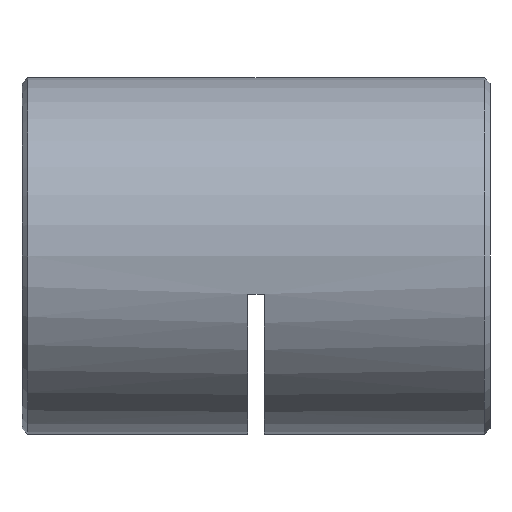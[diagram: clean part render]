
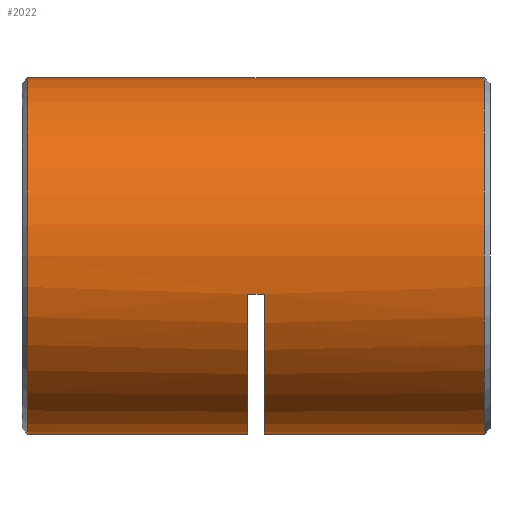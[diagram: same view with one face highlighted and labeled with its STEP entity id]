
A CAD part, left-side view. The second image highlights one B-rep face of the part: STEP entity #2022.
In plain terms, the highlighted cylindrical face has radius 16 mm (diameter 32 mm), a partial arc.
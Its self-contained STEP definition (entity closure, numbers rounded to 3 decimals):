
#1 = CARTESIAN_POINT ( 'NONE',  ( 0., 0.75, 16. ) ) ;
#260 = VERTEX_POINT ( 'NONE', #1418 ) ;
#297 = LINE ( 'NONE', #638, #3418 ) ;
#302 = VERTEX_POINT ( 'NONE', #1441 ) ;
#358 = DIRECTION ( 'NONE',  ( 0., 1., 0. ) ) ;
#368 = AXIS2_PLACEMENT_3D ( 'NONE', #6009, #1105, #1594 ) ;
#389 = VERTEX_POINT ( 'NONE', #2052 ) ;
#530 = EDGE_CURVE ( 'NONE', #302, #588, #5389, .T. ) ;
#542 = ORIENTED_EDGE ( 'NONE', *, *, #530, .F. ) ;
#588 = VERTEX_POINT ( 'NONE', #3415 ) ;
#610 = DIRECTION ( 'NONE',  ( 0., -1., 0. ) ) ;
#613 = CARTESIAN_POINT ( 'NONE',  ( 0., 20.5, 0. ) ) ;
#638 = CARTESIAN_POINT ( 'NONE',  ( 0., 42.5, 16. ) ) ;
#687 = CARTESIAN_POINT ( 'NONE',  ( -15.632, 21.25, -3.413 ) ) ;
#708 = DIRECTION ( 'NONE',  ( 0., -1., 0. ) ) ;
#739 = LINE ( 'NONE', #5750, #4716 ) ;
#868 = AXIS2_PLACEMENT_3D ( 'NONE', #613, #1071, #1574 ) ;
#885 = CIRCLE ( 'NONE', #368, 16. ) ;
#902 = DIRECTION ( 'NONE',  ( 0., -1., 0. ) ) ;
#1071 = DIRECTION ( 'NONE',  ( 0., -1., 0. ) ) ;
#1105 = DIRECTION ( 'NONE',  ( 0., -1., 0. ) ) ;
#1161 = EDGE_CURVE ( 'NONE', #302, #389, #1220, .T. ) ;
#1220 = LINE ( 'NONE', #687, #4294 ) ;
#1276 = ORIENTED_EDGE ( 'NONE', *, *, #4207, .T. ) ;
#1328 = CARTESIAN_POINT ( 'NONE',  ( 0., 20.5, -16. ) ) ;
#1371 = DIRECTION ( 'NONE',  ( 0., 0., -1. ) ) ;
#1418 = CARTESIAN_POINT ( 'NONE',  ( 0., 41.75, -16. ) ) ;
#1441 = CARTESIAN_POINT ( 'NONE',  ( -15.632, 22., -3.413 ) ) ;
#1573 = EDGE_CURVE ( 'NONE', #389, #4438, #3150, .T. ) ;
#1574 = DIRECTION ( 'NONE',  ( 0., 0., -1. ) ) ;
#1594 = DIRECTION ( 'NONE',  ( 0., 0., -1. ) ) ;
#1835 = DIRECTION ( 'NONE',  ( 0., -1., 0. ) ) ;
#2022 = ADVANCED_FACE ( 'NONE', ( #3603 ), #6146, .T. ) ;
#2052 = CARTESIAN_POINT ( 'NONE',  ( -15.632, 20.5, -3.413 ) ) ;
#2122 = ORIENTED_EDGE ( 'NONE', *, *, #4989, .T. ) ;
#2231 = AXIS2_PLACEMENT_3D ( 'NONE', #5300, #2359, #1371 ) ;
#2290 = DIRECTION ( 'NONE',  ( 0., 0., 1. ) ) ;
#2359 = DIRECTION ( 'NONE',  ( 0., -1., 0. ) ) ;
#2553 = VERTEX_POINT ( 'NONE', #5356 ) ;
#2573 = VERTEX_POINT ( 'NONE', #1 ) ;
#2689 = ORIENTED_EDGE ( 'NONE', *, *, #1573, .T. ) ;
#3150 = CIRCLE ( 'NONE', #868, 16. ) ;
#3415 = CARTESIAN_POINT ( 'NONE',  ( 0., 22., -16. ) ) ;
#3418 = VECTOR ( 'NONE', #3613, 1000. ) ;
#3423 = CARTESIAN_POINT ( 'NONE',  ( 0., 42.5, 0. ) ) ;
#3493 = VECTOR ( 'NONE', #708, 1000. ) ;
#3519 = AXIS2_PLACEMENT_3D ( 'NONE', #3423, #902, #4405 ) ;
#3563 = EDGE_CURVE ( 'NONE', #5985, #2573, #5898, .T. ) ;
#3603 = FACE_OUTER_BOUND ( 'NONE', #5673, .T. ) ;
#3613 = DIRECTION ( 'NONE',  ( 0., -1., 0. ) ) ;
#3816 = LINE ( 'NONE', #4209, #3493 ) ;
#4152 = ORIENTED_EDGE ( 'NONE', *, *, #3563, .T. ) ;
#4207 = EDGE_CURVE ( 'NONE', #2553, #260, #885, .T. ) ;
#4209 = CARTESIAN_POINT ( 'NONE',  ( 0., 42.5, -16. ) ) ;
#4294 = VECTOR ( 'NONE', #610, 1000. ) ;
#4315 = ORIENTED_EDGE ( 'NONE', *, *, #4482, .T. ) ;
#4405 = DIRECTION ( 'NONE',  ( 0., 0., -1. ) ) ;
#4438 = VERTEX_POINT ( 'NONE', #1328 ) ;
#4482 = EDGE_CURVE ( 'NONE', #260, #588, #739, .T. ) ;
#4716 = VECTOR ( 'NONE', #1835, 1000. ) ;
#4989 = EDGE_CURVE ( 'NONE', #4438, #5985, #3816, .T. ) ;
#5102 = AXIS2_PLACEMENT_3D ( 'NONE', #5187, #358, #2290 ) ;
#5187 = CARTESIAN_POINT ( 'NONE',  ( 0., 0.75, 0. ) ) ;
#5300 = CARTESIAN_POINT ( 'NONE',  ( 0., 22., 0. ) ) ;
#5356 = CARTESIAN_POINT ( 'NONE',  ( 0., 41.75, 16. ) ) ;
#5389 = CIRCLE ( 'NONE', #2231, 16. ) ;
#5516 = CARTESIAN_POINT ( 'NONE',  ( 0., 0.75, -16. ) ) ;
#5525 = EDGE_CURVE ( 'NONE', #2553, #2573, #297, .T. ) ;
#5673 = EDGE_LOOP ( 'NONE', ( #6073, #1276, #4315, #542, #5954, #2689, #2122, #4152 ) ) ;
#5750 = CARTESIAN_POINT ( 'NONE',  ( 0., 42.5, -16. ) ) ;
#5898 = CIRCLE ( 'NONE', #5102, 16. ) ;
#5954 = ORIENTED_EDGE ( 'NONE', *, *, #1161, .T. ) ;
#5985 = VERTEX_POINT ( 'NONE', #5516 ) ;
#6009 = CARTESIAN_POINT ( 'NONE',  ( 0., 41.75, 0. ) ) ;
#6073 = ORIENTED_EDGE ( 'NONE', *, *, #5525, .F. ) ;
#6146 = CYLINDRICAL_SURFACE ( 'NONE', #3519, 16. ) ;
